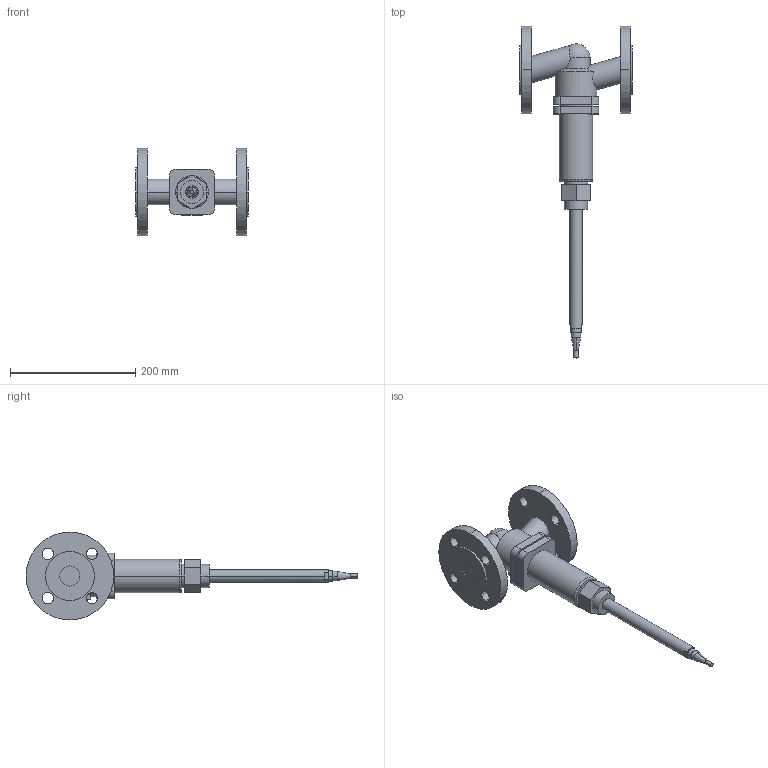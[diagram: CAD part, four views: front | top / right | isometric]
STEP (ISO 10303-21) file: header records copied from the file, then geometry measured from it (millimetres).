
FILE_DESCRIPTION(('CoCreate Modeling STEP Export'),'2;1');
FILE_NAME('c000001233.stp','2011-09-21T 8:38:40',(''),(''),'CoCreate Modeling STEP processor for AP214 (Solid Model)','CoCreate Modeling 17.0 01-Apr-2010 (C) Parametric Technology GmbH','');
FILE_SCHEMA(('AUTOMOTIVE_DESIGN { 1 0 10303 214 1 1 1 1 }'));
Length unit declared in the file: millimetre
Products named in the file (1): 1
Bounding box: 180 x 529.94 x 140 mm (x, y, z)
Volume: 1305972.8 mm3; surface area: 161901 mm2
Topology: 1 solids, 1 shells, 120 faces, 295 edges, 194 vertices
Faces by surface type: cylinder 60, plane 52, cone 4, torus 2, sphere 2
Entity records: 5659 total; most frequent: CARTESIAN_POINT 2012, ORIENTED_EDGE 586, DIRECTION 493, EDGE_CURVE 293, VERTEX_POINT 194, AXIS2_PLACEMENT_3D 174, EDGE_LOOP 155, VECTOR 145
